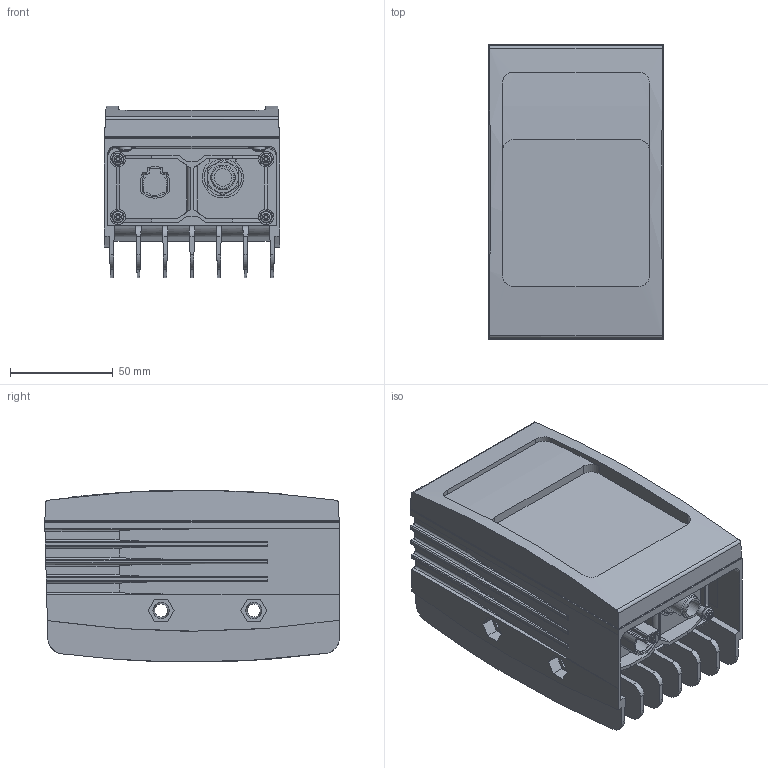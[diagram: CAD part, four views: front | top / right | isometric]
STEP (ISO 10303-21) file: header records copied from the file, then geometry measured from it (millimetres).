
FILE_DESCRIPTION( ( 'STEP AP203' ), ' ' );
FILE_NAME( 'p:/temp/worker_2/3856_2464/app_40_02015090811335360745492192d056f_000000_00_00_000000/format_4/O3M950.stp', '2015-09-08T09:34:02', ( '' ), ( '' ), ' ', 'PARTsolutions', ' ' );
FILE_SCHEMA( ( 'CONFIG_CONTROL_DESIGN' ) );
Length unit declared in the file: millimetre
Products named in the file (1): _O3M950
Bounding box: 85 x 143 x 83.34 mm (x, y, z)
Volume: 636307.7 mm3; surface area: 110572.3 mm2
Topology: 1 solids, 9 shells, 534 faces, 1425 edges, 941 vertices
Faces by surface type: cylinder 258, plane 246, cone 11, torus 10, sphere 8, bspline 1
Full cylindrical faces by diameter (mm): 6 x8, 6.58 x2, 7.4 x2, 8.5 x1, 10.6 x1, 12 x1
Entity records: 16911 total; most frequent: CARTESIAN_POINT 3309, DIRECTION 2942, ORIENTED_EDGE 2758, EDGE_CURVE 1379, AXIS2_PLACEMENT_3D 1079, VERTEX_POINT 933, LINE 784, VECTOR 784
